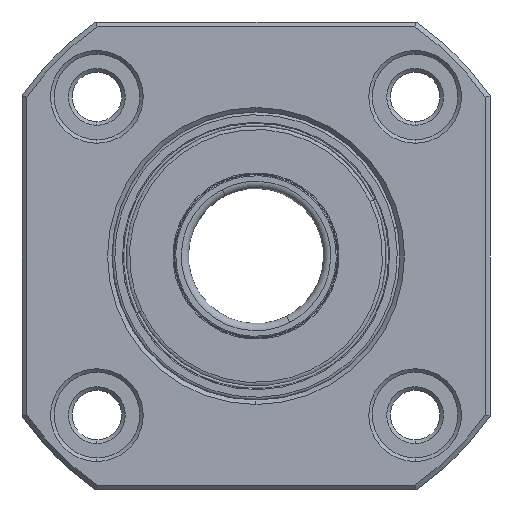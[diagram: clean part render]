
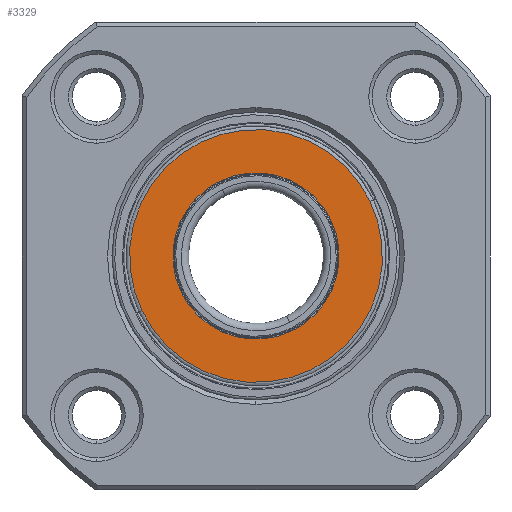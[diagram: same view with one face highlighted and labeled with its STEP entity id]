
A CAD part, left-side view. The second image highlights one B-rep face of the part: STEP entity #3329.
In plain terms, the highlighted planar face has unit normal (-1, 0, 0).
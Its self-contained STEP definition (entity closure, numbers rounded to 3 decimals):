
#69 = CARTESIAN_POINT ( 'NONE',  ( 3.6, 0., 0. ) ) ;
#115 = DIRECTION ( 'NONE',  ( 0., -0.902, 0.432 ) ) ;
#178 = DIRECTION ( 'NONE',  ( 0., -0.902, 0.432 ) ) ;
#183 = DIRECTION ( 'NONE',  ( 1., 0., 0. ) ) ;
#191 = CARTESIAN_POINT ( 'NONE',  ( 3.6, 0., 0. ) ) ;
#200 = CARTESIAN_POINT ( 'NONE',  ( 3.6, 8.327, -3.992 ) ) ;
#276 = CIRCLE ( 'NONE', #2511, 14.052 ) ;
#780 = CIRCLE ( 'NONE', #1088, 14.052 ) ;
#927 = DIRECTION ( 'NONE',  ( 1., 0., 0. ) ) ;
#1088 = AXIS2_PLACEMENT_3D ( 'NONE', #69, #3086, #115 ) ;
#1124 = ORIENTED_EDGE ( 'NONE', *, *, #2419, .T. ) ;
#1145 = CIRCLE ( 'NONE', #1984, 9.235 ) ;
#1146 = AXIS2_PLACEMENT_3D ( 'NONE', #3555, #2258, #2990 ) ;
#1211 = ORIENTED_EDGE ( 'NONE', *, *, #2066, .F. ) ;
#1231 = ORIENTED_EDGE ( 'NONE', *, *, #2261, .F. ) ;
#1242 = EDGE_CURVE ( 'NONE', #2689, #3273, #1145, .T. ) ;
#1531 = CARTESIAN_POINT ( 'NONE',  ( 3.6, 0., 0. ) ) ;
#1638 = DIRECTION ( 'NONE',  ( 0., -0.902, 0.432 ) ) ;
#1984 = AXIS2_PLACEMENT_3D ( 'NONE', #191, #183, #178 ) ;
#2066 = EDGE_CURVE ( 'NONE', #2645, #3430, #276, .T. ) ;
#2191 = CARTESIAN_POINT ( 'NONE',  ( 3.6, -8.327, 3.992 ) ) ;
#2258 = DIRECTION ( 'NONE',  ( 1., 0., 0. ) ) ;
#2261 = EDGE_CURVE ( 'NONE', #3430, #2645, #780, .T. ) ;
#2300 = CARTESIAN_POINT ( 'NONE',  ( 3.6, 12.671, -6.075 ) ) ;
#2405 = CARTESIAN_POINT ( 'NONE',  ( 3.6, -12.671, 6.075 ) ) ;
#2419 = EDGE_CURVE ( 'NONE', #3273, #2689, #3629, .T. ) ;
#2511 = AXIS2_PLACEMENT_3D ( 'NONE', #1531, #927, #1638 ) ;
#2525 = ORIENTED_EDGE ( 'NONE', *, *, #1242, .T. ) ;
#2598 = EDGE_LOOP ( 'NONE', ( #2525, #1124 ) ) ;
#2628 = AXIS2_PLACEMENT_3D ( 'NONE', #2715, #2703, #2699 ) ;
#2645 = VERTEX_POINT ( 'NONE', #2300 ) ;
#2689 = VERTEX_POINT ( 'NONE', #2191 ) ;
#2699 = DIRECTION ( 'NONE',  ( 0., -0.902, 0.432 ) ) ;
#2703 = DIRECTION ( 'NONE',  ( 1., 0., 0. ) ) ;
#2715 = CARTESIAN_POINT ( 'NONE',  ( 3.6, 0., 0. ) ) ;
#2846 = EDGE_LOOP ( 'NONE', ( #1231, #1211 ) ) ;
#2990 = DIRECTION ( 'NONE',  ( 0., -0.902, 0.432 ) ) ;
#3086 = DIRECTION ( 'NONE',  ( 1., 0., 0. ) ) ;
#3136 = FACE_BOUND ( 'NONE', #2598, .T. ) ;
#3137 = PLANE ( 'NONE',  #1146 ) ;
#3273 = VERTEX_POINT ( 'NONE', #200 ) ;
#3329 = ADVANCED_FACE ( 'NONE', ( #3443, #3136 ), #3137, .F. ) ;
#3430 = VERTEX_POINT ( 'NONE', #2405 ) ;
#3443 = FACE_OUTER_BOUND ( 'NONE', #2846, .T. ) ;
#3555 = CARTESIAN_POINT ( 'NONE',  ( 3.6, -3.992, -8.327 ) ) ;
#3629 = CIRCLE ( 'NONE', #2628, 9.235 ) ;
